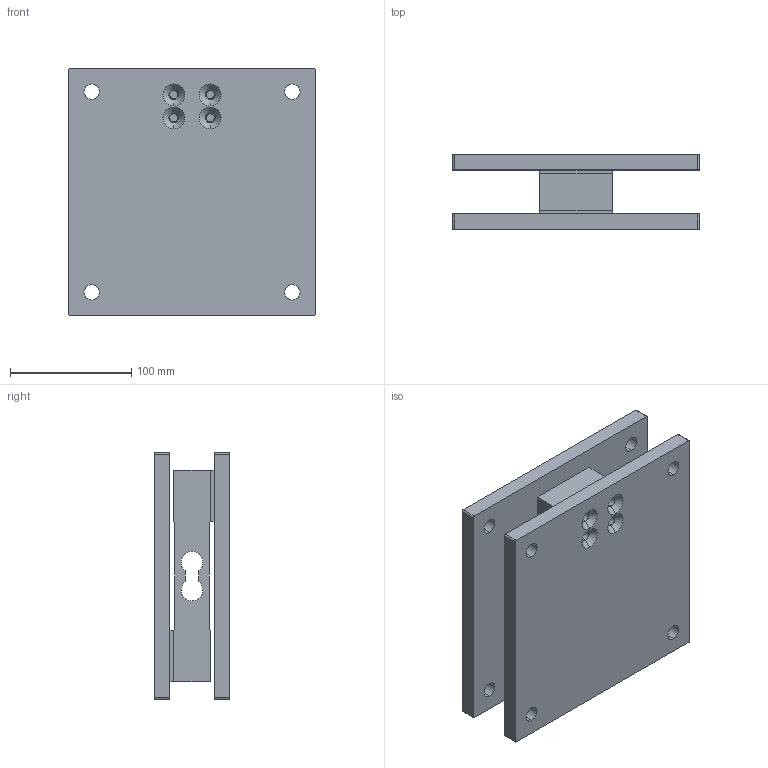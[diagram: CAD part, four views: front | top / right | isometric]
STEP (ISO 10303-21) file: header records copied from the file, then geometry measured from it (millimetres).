
FILE_DESCRIPTION (( 'STEP AP203' ), '1' );
FILE_NAME ('400-02650 rap4-weigh-module-assembly.STEP', '2019-08-16T03:20:26', ( '' ), ( '' ), 'SwSTEP 2.0', 'SolidWorks 2016', '' );
FILE_SCHEMA (( 'CONFIG_CONTROL_DESIGN' ));
Length unit declared in the file: millimetre
Products named in the file (4): rap4; 400-02650 rap4-weigh-module-assembly; 500-02351 (1) Al Shim for RAP3; 500-02391 RAP3 weigh module plate, Al, 8x8x0.5
Assembly tree (5 placements, depth 2):
  400-02650 rap4-weigh-module-assembly
    500-02391 RAP3 weigh module plate, Al, 8x8x0.5  x2
    500-02351 (1) Al Shim for RAP3  x2
    rap4
Bounding box: 203.2 x 61.75 x 203.2 mm (x, y, z)
Volume: 1303885.6 mm3; surface area: 244964.1 mm2
Topology: 5 solids, 5 shells, 131 faces, 347 edges, 226 vertices
Faces by surface type: cylinder 75, plane 40, cone 16
Entity records: 3197 total; most frequent: DIRECTION 507, CARTESIAN_POINT 460, ORIENTED_EDGE 446, EDGE_CURVE 223, AXIS2_PLACEMENT_3D 193, VERTEX_POINT 146, EDGE_LOOP 125, LINE 121
